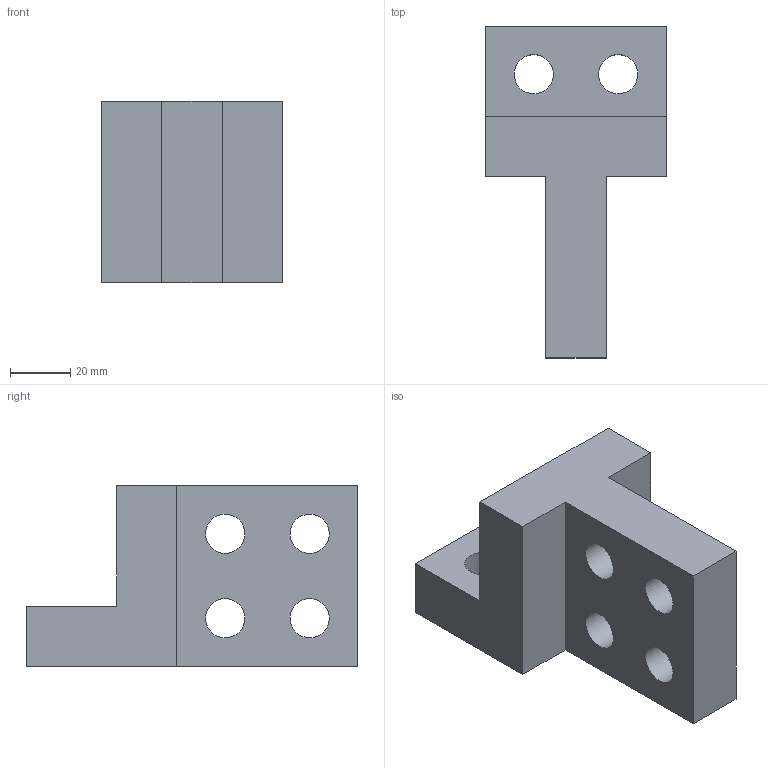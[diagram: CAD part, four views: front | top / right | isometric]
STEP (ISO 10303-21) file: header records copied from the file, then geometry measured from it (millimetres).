
FILE_DESCRIPTION(/* description */ ('Шина'),/* implementation_level */ '2;1');
FILE_NAME(/* name */ 'D:\TO-2\УТпв вариант\УТПВ\шина.stp',/* time_stamp */ '2025-02-12T16:53:33+03:00',/* author */ ('y.kosykh'),/* organization */ (''),/* preprocessor_version */ 'ST-DEVELOPER v15.2',/* originating_system */ 'Autodesk Inventor 2014',/* authorisation */ '');
FILE_SCHEMA (('AUTOMOTIVE_DESIGN { 1 0 10303 214 3 1 1 }'));
Length unit declared in the file: millimetre
Products named in the file (1): шина
Bounding box: 60 x 110 x 60 mm (x, y, z)
Volume: 164072.1 mm3; surface area: 29708.1 mm2
Topology: 1 solids, 1 shells, 18 faces, 54 edges, 38 vertices
Faces by surface type: plane 12, cylinder 6
Full cylindrical faces by diameter (mm): 13 x6
Entity records: 582 total; most frequent: CARTESIAN_POINT 93, DIRECTION 92, ORIENTED_EDGE 84, EDGE_CURVE 42, EDGE_LOOP 36, VERTEX_POINT 32, AXIS2_PLACEMENT_3D 31, LINE 30
